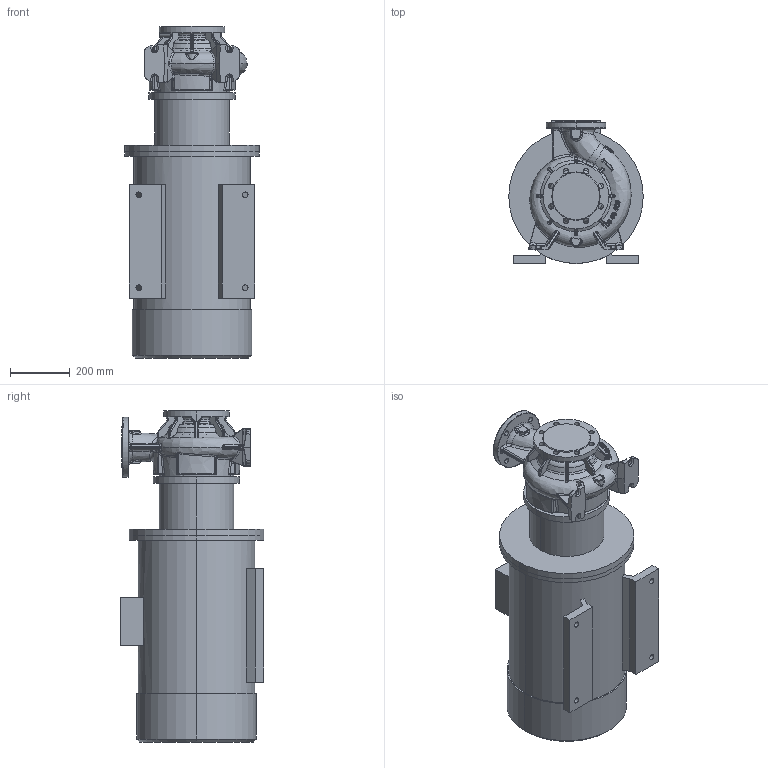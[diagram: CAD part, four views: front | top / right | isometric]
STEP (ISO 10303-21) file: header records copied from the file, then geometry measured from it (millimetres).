
FILE_DESCRIPTION (( 'STEP AP214' ), '1' );
FILE_NAME ('KRM 125-100-200-2-45.STEP', '2026-04-22T13:56:47', ( '' ), ( '' ), 'SwSTEP 2.0', 'SolidWorks 2016', '' );
FILE_SCHEMA (( 'AUTOMOTIVE_DESIGN' ));
Length unit declared in the file: millimetre
Products named in the file (1): KRM 125-100-200-2-45
Bounding box: 450 x 480 x 1110.8 mm (x, y, z)
Volume: 115509375.3 mm3; surface area: 2709132.4 mm2
Topology: 14 solids, 14 shells, 1370 faces, 3283 edges, 1958 vertices
Faces by surface type: bspline 620, cylinder 304, plane 222, torus 119, cone 77, sphere 28
Entity records: 106708 total; most frequent: CARTESIAN_POINT 64391, ORIENTED_EDGE 6550, DIRECTION 4476, EDGE_CURVE 3275, VERTEX_POINT 1958, AXIS2_PLACEMENT_3D 1860, EDGE_LOOP 1441, UNCERTAINTY_MEASURE_WITH_UNIT 1386
